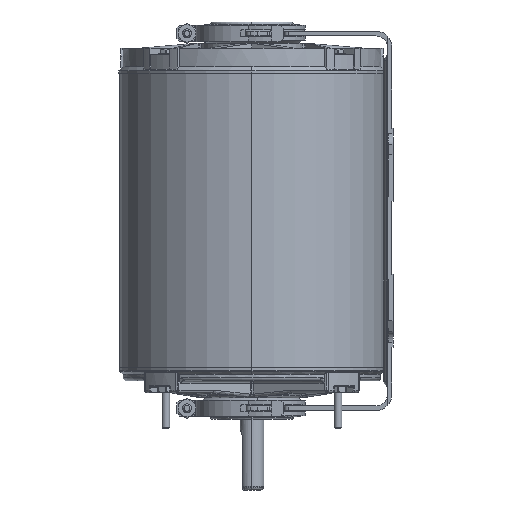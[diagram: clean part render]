
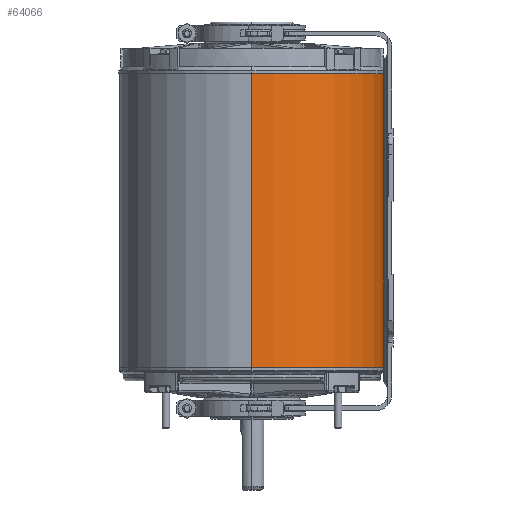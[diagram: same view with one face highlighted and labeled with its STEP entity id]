
A CAD part, left-side view. The second image highlights one B-rep face of the part: STEP entity #64066.
In plain terms, the highlighted cylindrical face has radius 70.993 mm (diameter 141.986 mm), a partial arc.
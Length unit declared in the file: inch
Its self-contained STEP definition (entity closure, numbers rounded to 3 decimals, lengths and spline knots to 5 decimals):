
#617 = EDGE_LOOP ( 'NONE', ( #44620, #44102, #41741, #40257 ) ) ;
#2852 = CARTESIAN_POINT ( 'NONE',  ( -2.795, 0., 3.11 ) ) ;
#6997 = DIRECTION ( 'NONE',  ( 1., 0., 0. ) ) ;
#7627 = VERTEX_POINT ( 'NONE', #80499 ) ;
#9428 = AXIS2_PLACEMENT_3D ( 'NONE', #34961, #97068, #74035 ) ;
#12065 = CYLINDRICAL_SURFACE ( 'NONE', #9428, 2.795 ) ;
#12684 = FACE_OUTER_BOUND ( 'NONE', #617, .T. ) ;
#16289 = CARTESIAN_POINT ( 'NONE',  ( -2.795, 0., 3.11 ) ) ;
#18674 = VERTEX_POINT ( 'NONE', #80387 ) ;
#19425 = VECTOR ( 'NONE', #47450, 39.37008 ) ;
#23955 = CIRCLE ( 'NONE', #65755, 2.795 ) ;
#24070 = CARTESIAN_POINT ( 'NONE',  ( -0.1828, -2.78902, 3.11 ) ) ;
#34961 = CARTESIAN_POINT ( 'NONE',  ( 0., 0., 3.11 ) ) ;
#35601 = EDGE_CURVE ( 'NONE', #7627, #71360, #23955, .T. ) ;
#40257 = ORIENTED_EDGE ( 'NONE', *, *, #74332, .F. ) ;
#41741 = ORIENTED_EDGE ( 'NONE', *, *, #95129, .F. ) ;
#42368 = VERTEX_POINT ( 'NONE', #65566 ) ;
#44102 = ORIENTED_EDGE ( 'NONE', *, *, #77597, .T. ) ;
#44620 = ORIENTED_EDGE ( 'NONE', *, *, #35601, .T. ) ;
#47450 = DIRECTION ( 'NONE',  ( 0., 0., -1. ) ) ;
#54013 = DIRECTION ( 'NONE',  ( 0., 0., -1. ) ) ;
#64066 = ADVANCED_FACE ( 'NONE', ( #12684 ), #12065, .T. ) ;
#65566 = CARTESIAN_POINT ( 'NONE',  ( -2.795, 0., -3.11 ) ) ;
#65755 = AXIS2_PLACEMENT_3D ( 'NONE', #72927, #72717, #72681 ) ;
#71119 = LINE ( 'NONE', #16289, #72270 ) ;
#71179 = DIRECTION ( 'NONE',  ( 0., 0., -1. ) ) ;
#71360 = VERTEX_POINT ( 'NONE', #2852 ) ;
#72270 = VECTOR ( 'NONE', #71179, 39.37008 ) ;
#72681 = DIRECTION ( 'NONE',  ( 1., 0., 0. ) ) ;
#72717 = DIRECTION ( 'NONE',  ( 0., 0., -1. ) ) ;
#72927 = CARTESIAN_POINT ( 'NONE',  ( 0., 0., 3.11 ) ) ;
#74035 = DIRECTION ( 'NONE',  ( -1., 0., 0. ) ) ;
#74332 = EDGE_CURVE ( 'NONE', #7627, #18674, #96381, .T. ) ;
#77597 = EDGE_CURVE ( 'NONE', #71360, #42368, #71119, .T. ) ;
#80387 = CARTESIAN_POINT ( 'NONE',  ( -0.1828, -2.78902, -3.11 ) ) ;
#80499 = CARTESIAN_POINT ( 'NONE',  ( -0.1828, -2.78902, 3.11 ) ) ;
#87082 = CIRCLE ( 'NONE', #95321, 2.795 ) ;
#95129 = EDGE_CURVE ( 'NONE', #18674, #42368, #87082, .T. ) ;
#95321 = AXIS2_PLACEMENT_3D ( 'NONE', #100602, #54013, #6997 ) ;
#96381 = LINE ( 'NONE', #24070, #19425 ) ;
#97068 = DIRECTION ( 'NONE',  ( 0., 0., -1. ) ) ;
#100602 = CARTESIAN_POINT ( 'NONE',  ( 0., 0., -3.11 ) ) ;
